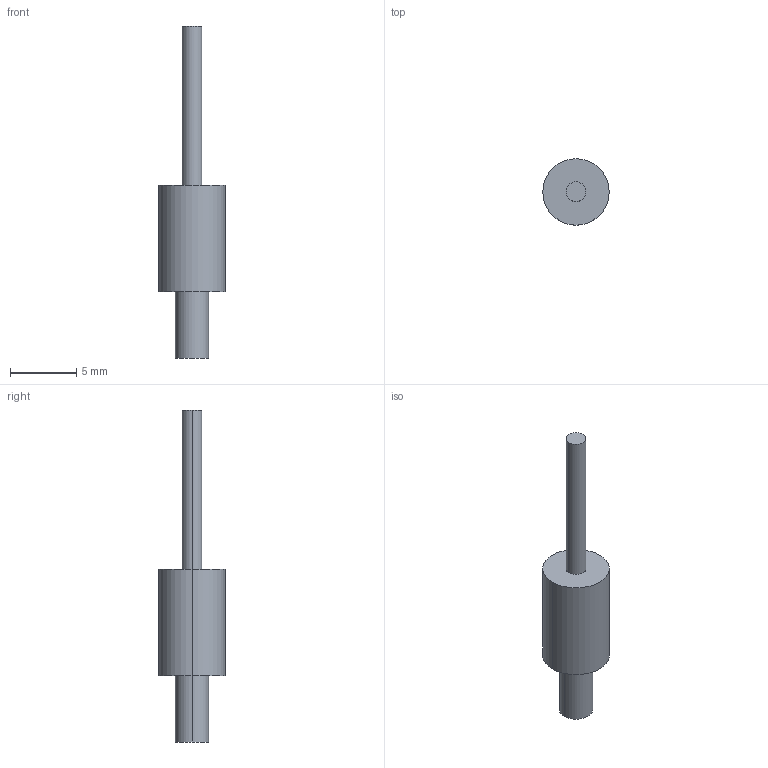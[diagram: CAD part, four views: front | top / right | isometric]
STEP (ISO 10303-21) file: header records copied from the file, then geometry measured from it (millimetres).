
FILE_DESCRIPTION (( 'STEP AP203' ), '1' );
FILE_NAME ('tr-s321-h.STEP', '2016-10-07T01:35:37', ( '' ), ( '' ), 'SwSTEP 2.0', 'SolidWorks 2014', '' );
FILE_SCHEMA (( 'CONFIG_CONTROL_DESIGN' ));
Length unit declared in the file: millimetre
Products named in the file (1): tr-s321-h
Bounding box: 5 x 5 x 25 mm (x, y, z)
Volume: 202.8 mm3; surface area: 260.8 mm2
Topology: 1 solids, 1 shells, 10 faces, 18 edges, 12 vertices
Faces by surface type: cylinder 6, plane 4
Entity records: 331 total; most frequent: DIRECTION 52, CARTESIAN_POINT 41, ORIENTED_EDGE 36, AXIS2_PLACEMENT_3D 23, EDGE_CURVE 18, VERTEX_POINT 12, CIRCLE 12, EDGE_LOOP 12
